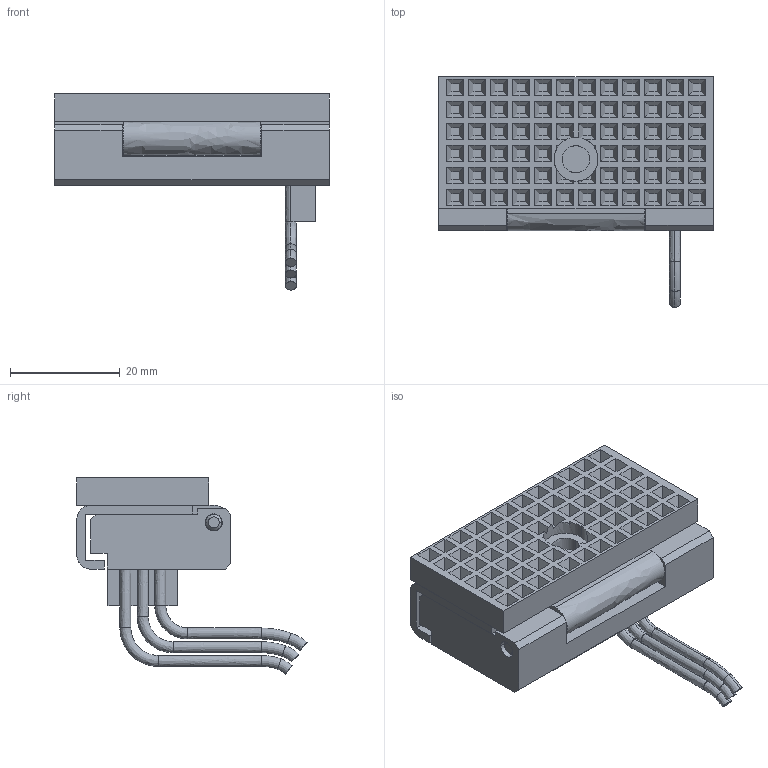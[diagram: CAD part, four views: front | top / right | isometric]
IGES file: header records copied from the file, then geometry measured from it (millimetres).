
Start section:  PTC IGES file: 100930_krcw-5000.igs
Global section: file name: 100930_krcw-5000.igs; native system: Pro/ENGINEER by Parametric Technology Corporation; preprocessor: 2004090; author: KAIHATSU01; organization: Unknown; date: 061017.092853; units: millimetre
Bounding box: 50 x 41.89 x 35.69 mm (x, y, z)
Volume: 20364.1 mm3; surface area: 10315.7 mm2
Topology: 1 solids, 1 shells, 490 faces, 1197 edges, 782 vertices
Faces by surface type: bspline 490
